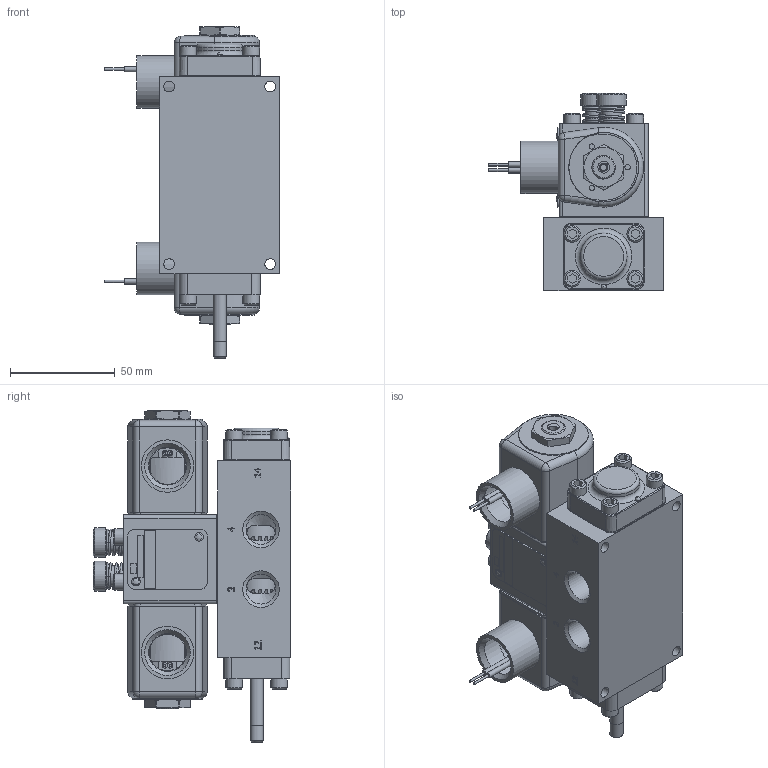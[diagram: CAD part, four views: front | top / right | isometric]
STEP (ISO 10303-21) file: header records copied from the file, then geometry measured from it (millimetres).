
FILE_DESCRIPTION(/* description */ (''),/* implementation_level */ '2;1');
FILE_NAME(/* name */ 'D:\Website Files\stp\Valves\Classic\SS\SS3OK.stp',/* time_stamp */ '2018-12-16T22:38:39-05:00',/* author */ ('RMcKenna'),/* organization */ (''),/* preprocessor_version */ 'ST-DEVELOPER v17',/* originating_system */ 'Autodesk Inventor 2018',/* authorisation */ '');
FILE_SCHEMA (('AUTOMOTIVE_DESIGN { 1 0 10303 214 3 1 1 }'));
Products named in the file (1): Part2
Bounding box: 83.63 x 94.58 x 158.84 mm (x, y, z)
Volume: 359750.1 mm3; surface area: 140897.5 mm2
Topology: 5 solids, 41 shells, 1902 faces, 4751 edges, 3094 vertices
Faces by surface type: plane 872, cylinder 426, cone 296, torus 151, bspline 146, sphere 11
Full cylindrical faces by diameter (mm): 1.168 x4, 1.727 x6, 2.07 x2, 2.261 x2, 2.35 x2, 2.54 x4, 2.778 x2, 3.048 x4, 3.175 x4, 3.302 x2, 3.683 x12, 3.912 x1, 3.962 x2, 4.366 x9, 4.826 x16, 5.105 x4, 5.156 x12, 5.159 x5, 5.537 x7, 6.35 x3, 6.629 x4, 7.671 x1, 7.938 x12, 7.95 x1, 9.144 x2, 9.462 x2, 9.474 x6, 9.525 x2, 9.83 x2, 9.922 x2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
Entity records: 65771 total; most frequent: CARTESIAN_POINT 18948, ORIENTED_EDGE 9442, DIRECTION 9172, EDGE_CURVE 4721, AXIS2_PLACEMENT_3D 3439, VERTEX_POINT 3094, LINE 2294, VECTOR 2294
